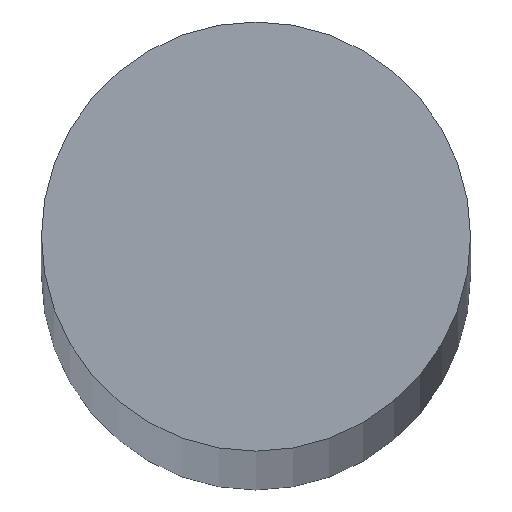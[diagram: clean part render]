
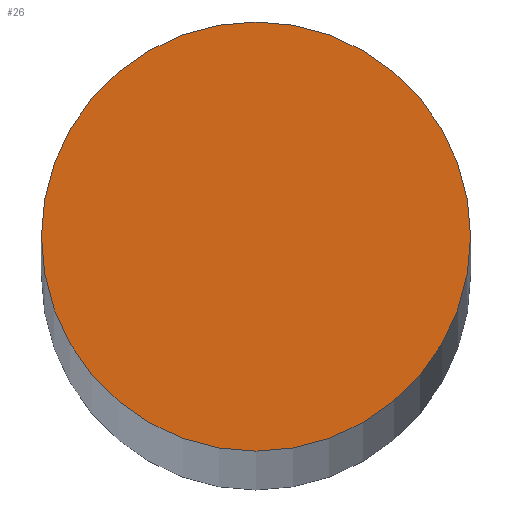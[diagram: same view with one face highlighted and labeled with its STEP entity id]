
A CAD part, top view. The second image highlights one B-rep face of the part: STEP entity #26.
In plain terms, the highlighted planar face has unit normal (0, 0, 1).
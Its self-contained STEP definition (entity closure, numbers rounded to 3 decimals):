
#3 = AXIS2_PLACEMENT_3D ( 'NONE', #90, #99, #100 ) ;
#10 = EDGE_CURVE ( 'NONE', #81, #78, #53, .T. ) ;
#16 = EDGE_CURVE ( 'NONE', #78, #81, #57, .T. ) ;
#17 = AXIS2_PLACEMENT_3D ( 'NONE', #88, #91, #92 ) ;
#19 = AXIS2_PLACEMENT_3D ( 'NONE', #102, #113, #114 ) ;
#26 = ADVANCED_FACE ( 'NONE', ( #54 ), #97, .T. ) ;
#34 = EDGE_LOOP ( 'NONE', ( #44, #42 ) ) ;
#42 = ORIENTED_EDGE ( 'NONE', *, *, #16, .T. ) ;
#44 = ORIENTED_EDGE ( 'NONE', *, *, #10, .T. ) ;
#53 = CIRCLE ( 'NONE', #17, 6. ) ;
#54 = FACE_OUTER_BOUND ( 'NONE', #34, .T. ) ;
#57 = CIRCLE ( 'NONE', #3, 6. ) ;
#78 = VERTEX_POINT ( 'NONE', #116 ) ;
#81 = VERTEX_POINT ( 'NONE', #115 ) ;
#88 = CARTESIAN_POINT ( 'NONE',  ( 0., 0., 311. ) ) ;
#90 = CARTESIAN_POINT ( 'NONE',  ( 0., 0., 311. ) ) ;
#91 = DIRECTION ( 'NONE',  ( 0., 0., 1. ) ) ;
#92 = DIRECTION ( 'NONE',  ( 1., 0., 0. ) ) ;
#97 = PLANE ( 'NONE',  #19 ) ;
#99 = DIRECTION ( 'NONE',  ( 0., 0., 1. ) ) ;
#100 = DIRECTION ( 'NONE',  ( 1., 0., 0. ) ) ;
#102 = CARTESIAN_POINT ( 'NONE',  ( 0., 0., 311. ) ) ;
#113 = DIRECTION ( 'NONE',  ( 0., 0., 1. ) ) ;
#114 = DIRECTION ( 'NONE',  ( 1., 0., 0. ) ) ;
#115 = CARTESIAN_POINT ( 'NONE',  ( -6., 0., 311. ) ) ;
#116 = CARTESIAN_POINT ( 'NONE',  ( 6., 0., 311. ) ) ;
